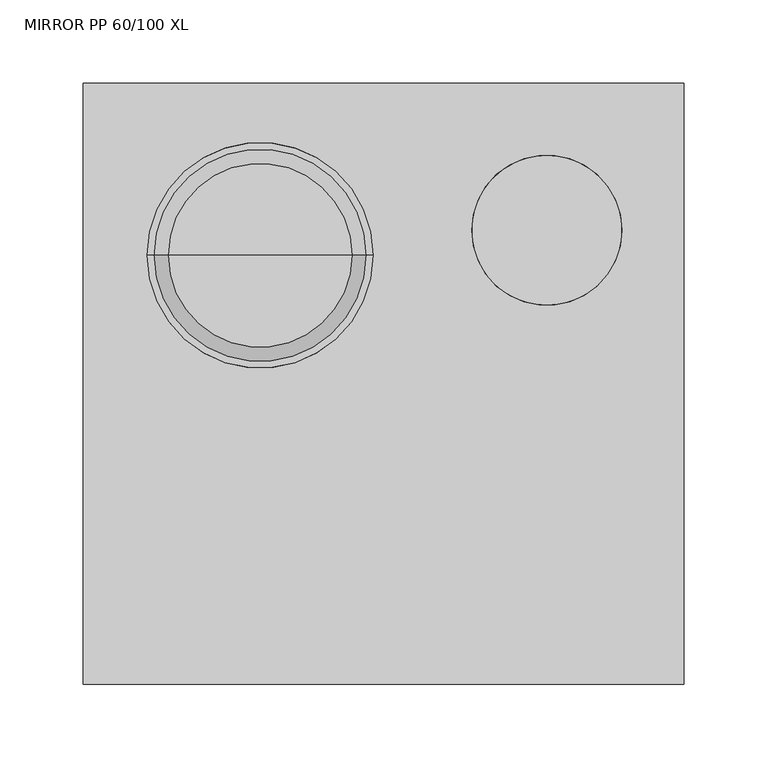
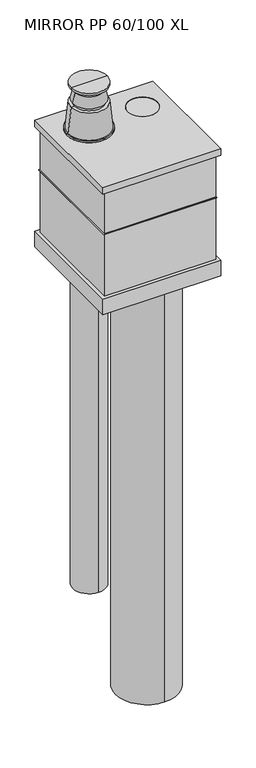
"""IFC4 building model written with IfcOpenShell, lengths in millimetres: proxy geometry, RSen_GM_WPB_Mini-Delta_M&G : MIRROR PP 60/100 XL."""

from ifc_helpers import new_model, si_unit, point, frame, frame_2d, origin, place, context, project, spatial, polyline, circle_curve, trimmed, segment, composite_curve, outline, extrude, faceted_brep, source, transform, mapped, element, save
from ifc_brep_helpers import plane_surface, cylinder_surface, revolved_surface, advanced_brep


def mirror_pp_60_100_xl_27835513(model_context):
    return source(origin(), model_context, "Body", "SolidModel", [
        advanced_brep(
        [(13.5, 77.0, 617.8458328), (-161.5, 77.0, 617.8458328), (-74.0, 77.0, 617.8458328), (-6.3843383, 77.0, 726.8458328), (-141.6156617, 77.0, 726.8458328), (-6.3843383, 77.0, 731.8458328), (-141.6156617, 77.0, 731.8458328), (-10.3450748, 77.0, 731.8458328), (-137.6549252, 77.0, 731.8458328), (-19.0, 77.0, 814.1919451), (-129.0, 77.0, 814.1919451), (-29.0, 77.0, 814.1919451), (-119.0, 77.0, 814.1919451), (-29.0, 77.0, 824.1919451), (-119.0, 77.0, 824.1919451), (-23.961256, 77.0, 824.1919451), (-124.038744, 77.0, 824.1919451), (-31.5, 77.0, 856.8458328), (-116.5, 77.0, 856.8458328), (-64.0, 77.0, 856.8458328), (-84.0, 77.0, 856.8458328), (-64.0, 77.0, 858.8265807), (-84.0, 77.0, 858.8265807), (-19.0, 77.0, 870.8842944), (-129.0, 77.0, 870.8842944), (-19.0, 77.0, 876.8458328), (-129.0, 77.0, 876.8458328), (-74.0, 77.0, 876.8458328)],
        [
            (0, 1, circle_curve(frame((-74.0, 77.0, 617.8458328), z_axis=(0.0, 0.0, -1.0), x_axis=(-1.0, 0.0, 0.0)), 87.5)),
            (1, 2),
            (2, 0),
            (1, 0, circle_curve(frame((-74.0, 77.0, 617.8458328), z_axis=(0.0, 0.0, -1.0), x_axis=(-1.0, 0.0, 0.0)), 87.5)),
            (3, 4, circle_curve(frame((-74.0, 77.0, 726.8458328), z_axis=(0.0, 0.0, -1.0), x_axis=(-1.0, 0.0, 0.0)), 67.6156617)),
            (4, 1),
            (0, 3),
            (4, 3, circle_curve(frame((-74.0, 77.0, 726.8458328), z_axis=(0.0, 0.0, -1.0), x_axis=(-1.0, 0.0, 0.0)), 67.6156617)),
            (5, 6, circle_curve(frame((-74.0, 77.0, 731.8458328), z_axis=(0.0, 0.0, -1.0), x_axis=(-1.0, 0.0, 0.0)), 67.6156617)),
            (6, 4),
            (3, 5),
            (6, 5, circle_curve(frame((-74.0, 77.0, 731.8458328), z_axis=(0.0, 0.0, -1.0), x_axis=(-1.0, 0.0, 0.0)), 67.6156617)),
            (7, 8, circle_curve(frame((-74.0, 77.0, 731.8458328), z_axis=(0.0, 0.0, -1.0), x_axis=(-1.0, 0.0, 0.0)), 63.6549252)),
            (8, 6),
            (5, 7),
            (8, 7, circle_curve(frame((-74.0, 77.0, 731.8458328), z_axis=(0.0, 0.0, -1.0), x_axis=(-1.0, 0.0, 0.0)), 63.6549252)),
            (9, 10, circle_curve(frame((-74.0, 77.0, 814.1919451), z_axis=(0.0, 0.0, -1.0), x_axis=(-1.0, 0.0, 0.0)), 55.0)),
            (10, 8),
            (7, 9),
            (10, 9, circle_curve(frame((-74.0, 77.0, 814.1919451), z_axis=(0.0, 0.0, -1.0), x_axis=(-1.0, 0.0, 0.0)), 55.0)),
            (11, 12, circle_curve(frame((-74.0, 77.0, 814.1919451), z_axis=(0.0, 0.0, -1.0), x_axis=(-1.0, 0.0, 0.0)), 45.0)),
            (12, 10),
            (9, 11),
            (12, 11, circle_curve(frame((-74.0, 77.0, 814.1919451), z_axis=(0.0, 0.0, -1.0), x_axis=(-1.0, 0.0, 0.0)), 45.0)),
            (13, 14, circle_curve(frame((-74.0, 77.0, 824.1919451), z_axis=(0.0, 0.0, -1.0), x_axis=(-1.0, 0.0, 0.0)), 45.0)),
            (14, 12),
            (11, 13),
            (14, 13, circle_curve(frame((-74.0, 77.0, 824.1919451), z_axis=(0.0, 0.0, -1.0), x_axis=(-1.0, 0.0, 0.0)), 45.0)),
            (15, 16, circle_curve(frame((-74.0, 77.0, 824.1919451), z_axis=(0.0, 0.0, -1.0), x_axis=(-1.0, 0.0, 0.0)), 50.038744)),
            (16, 14),
            (13, 15),
            (16, 15, circle_curve(frame((-74.0, 77.0, 824.1919451), z_axis=(0.0, 0.0, -1.0), x_axis=(-1.0, 0.0, 0.0)), 50.038744)),
            (17, 18, circle_curve(frame((-74.0, 77.0, 856.8458328), z_axis=(0.0, 0.0, -1.0), x_axis=(-1.0, 0.0, 0.0)), 42.5)),
            (18, 16),
            (15, 17),
            (18, 17, circle_curve(frame((-74.0, 77.0, 856.8458328), z_axis=(0.0, 0.0, -1.0), x_axis=(-1.0, 0.0, 0.0)), 42.5)),
            (19, 20, circle_curve(frame((-74.0, 77.0, 856.8458328), z_axis=(0.0, 0.0, -1.0), x_axis=(-1.0, 0.0, 0.0)), 10.0)),
            (20, 18),
            (17, 19),
            (20, 19, circle_curve(frame((-74.0, 77.0, 856.8458328), z_axis=(0.0, 0.0, -1.0), x_axis=(-1.0, 0.0, 0.0)), 10.0)),
            (21, 22, circle_curve(frame((-74.0, 77.0, 858.8265807), z_axis=(0.0, 0.0, -1.0), x_axis=(-1.0, 0.0, 0.0)), 10.0)),
            (22, 20),
            (19, 21),
            (22, 21, circle_curve(frame((-74.0, 77.0, 858.8265807), z_axis=(0.0, 0.0, -1.0), x_axis=(-1.0, 0.0, 0.0)), 10.0)),
            (23, 24, circle_curve(frame((-74.0, 77.0, 870.8842944), z_axis=(0.0, 0.0, -1.0), x_axis=(-1.0, 0.0, 0.0)), 55.0)),
            (24, 22),
            (21, 23),
            (24, 23, circle_curve(frame((-74.0, 77.0, 870.8842944), z_axis=(0.0, 0.0, -1.0), x_axis=(-1.0, 0.0, 0.0)), 55.0)),
            (25, 26, circle_curve(frame((-74.0, 77.0, 876.8458328), z_axis=(0.0, 0.0, -1.0), x_axis=(-1.0, 0.0, 0.0)), 55.0)),
            (26, 24),
            (23, 25),
            (26, 25, circle_curve(frame((-74.0, 77.0, 876.8458328), z_axis=(0.0, 0.0, -1.0), x_axis=(-1.0, 0.0, 0.0)), 55.0)),
            (27, 26),
            (25, 27),
        ],
        [
            plane_surface(frame((-74.0, 77.0, 617.8458328), z_axis=(0.0, 0.0, -1.0), x_axis=(-1.0, 0.0, 0.0))),
            revolved_surface(polyline([(-161.5, 77.0, 617.8458328), (-141.6156617, 77.0, 726.8458328)]), (-74.0, 77.0, -439.3122295), (0.0, 0.0, 1.0)),
            cylinder_surface(frame((-74.0, 77.0, -439.3122295), z_axis=(0.0, 0.0, 1.0), x_axis=(-1.0, 0.0, 0.0)), 67.6156617),
            plane_surface(frame((-74.0, 77.0, 731.8458328), z_axis=(0.0, 0.0, 1.0), x_axis=(-1.0, 0.0, 0.0))),
            revolved_surface(polyline([(-137.6549252, 77.0, 731.8458328), (-129.0, 77.0, 814.1919451)]), (-74.0, 77.0, -439.3122295), (0.0, 0.0, 1.0)),
            plane_surface(frame((-74.0, 77.0, 814.1919451), z_axis=(0.0, 0.0, 1.0), x_axis=(-1.0, 0.0, 0.0))),
            cylinder_surface(frame((-74.0, 77.0, -439.3122295), z_axis=(0.0, 0.0, 1.0), x_axis=(-1.0, 0.0, 0.0)), 45.0),
            plane_surface(frame((-74.0, 77.0, 824.1919451), z_axis=(0.0, 0.0, -1.0), x_axis=(-1.0, 0.0, 0.0))),
            revolved_surface(polyline([(-124.038744, 77.0, 824.1919451), (-116.5, 77.0, 856.8458328)]), (-74.0, 77.0, -439.3122295), (0.0, 0.0, 1.0)),
            plane_surface(frame((-74.0, 77.0, 856.8458328), z_axis=(0.0, 0.0, 1.0), x_axis=(-1.0, 0.0, 0.0))),
            cylinder_surface(frame((-74.0, 77.0, -439.3122295), z_axis=(0.0, 0.0, 1.0), x_axis=(-1.0, 0.0, 0.0)), 10.0),
            revolved_surface(polyline([(-84.0, 77.0, 858.8265807), (-129.0, 77.0, 870.8842944)]), (-74.0, 77.0, -439.3122295), (0.0, 0.0, 1.0)),
            cylinder_surface(frame((-74.0, 77.0, -439.3122295), z_axis=(0.0, 0.0, 1.0), x_axis=(-1.0, 0.0, 0.0)), 55.0),
            plane_surface(frame((-74.0, 77.0, 876.8458328), z_axis=(0.0, 0.0, 1.0), x_axis=(-1.0, 0.0, 0.0))),
        ],
        [
            (0, [[1, 2, 3]]),
            (0, [[4, -3, -2]]),
            (1, [[5, 6, -1, 7]]),
            (1, [[8, -7, -4, -6]]),
            (2, [[9, 10, -5, 11]]),
            (2, [[12, -11, -8, -10]]),
            (3, [[13, 14, -9, 15]]),
            (3, [[16, -15, -12, -14]]),
            (4, [[17, 18, -13, 19]]),
            (4, [[20, -19, -16, -18]]),
            (5, [[21, 22, -17, 23]]),
            (5, [[24, -23, -20, -22]]),
            (6, [[25, 26, -21, 27]]),
            (6, [[28, -27, -24, -26]]),
            (7, [[29, 30, -25, 31]]),
            (7, [[32, -31, -28, -30]]),
            (8, [[33, 34, -29, 35]]),
            (8, [[36, -35, -32, -34]]),
            (9, [[37, 38, -33, 39]]),
            (9, [[40, -39, -36, -38]]),
            (10, [[41, 42, -37, 43]]),
            (10, [[44, -43, -40, -42]]),
            (11, [[45, 46, -41, 47]]),
            (11, [[48, -47, -44, -46]]),
            (12, [[49, 50, -45, 51]]),
            (12, [[52, -51, -48, -50]]),
            (13, [[53, -49, 54]]),
            (13, [[-54, -52, -53]]),
        ],
    ),
        extrude(outline(polyline([(172.5, 172.5), (172.5, -172.5), (-172.5, -172.5), (-172.5, 172.5), (172.5, 172.5)])), frame((0.0, 0.0, 567.8458328), z_axis=(0.0, 0.0, 1.0), x_axis=(1.0, 0.0, 0.0)), (0.0, 0.0, 1.0), 1.3),
        extrude(outline(composite_curve([segment(trimmed(circle_curve(frame_2d((98.0, 92.0)), 45.0), [point((98.0, 47.0))], [point((98.0, 137.0))], False, "CARTESIAN"), True, "CONTINUOUS"), segment(trimmed(circle_curve(frame_2d((98.0, 92.0)), 45.0), [point((98.0, 137.0))], [point((98.0, 47.0))], False, "CARTESIAN"), True, "CONTINUOUS")], self_intersect=False)), frame((0.0, 0.0, -908.1541672), z_axis=(0.0, 0.0, 1.0), x_axis=(1.0, 0.0, 0.0)), (0.0, 0.0, 1.0), 1633.7),
        extrude(outline(composite_curve([segment(trimmed(circle_curve(frame_2d((-74.0, 77.0)), 50.0), [point((-74.0, 27.0))], [point((-74.0, 127.0))], False, "CARTESIAN"), True, "CONTINUOUS"), segment(trimmed(circle_curve(frame_2d((-74.0, 77.0)), 50.0), [point((-74.0, 127.0))], [point((-74.0, 27.0))], False, "CARTESIAN"), True, "CONTINUOUS")], self_intersect=False)), frame((0.0, 0.0, -742.1541672), z_axis=(0.0, 0.0, 1.0), x_axis=(1.0, 0.0, 0.0)), (0.0, 0.0, 1.0), 1449.0),
        extrude(outline(composite_curve([segment(trimmed(circle_curve(frame_2d((33.0, -42.0)), 95.0), [point((33.0, -137.0))], [point((33.0, 53.0))], False, "CARTESIAN"), True, "CONTINUOUS"), segment(trimmed(circle_curve(frame_2d((33.0, -42.0)), 95.0), [point((33.0, 53.0))], [point((33.0, -137.0))], False, "CARTESIAN"), True, "CONTINUOUS")], self_intersect=False)), frame((0.0, 0.0, -1034.1541672), z_axis=(0.0, 0.0, 1.0), x_axis=(1.0, 0.0, 0.0)), (0.0, 0.0, 1.0), 1500.0),
        advanced_brep(
        [(180.0, 180.0, 726.8458328), (-180.0, 180.0, 726.8458328), (-180.0, -180.0, 726.8458328), (180.0, -180.0, 726.8458328), (53.0, 92.0, 726.8458328), (143.0, 92.0, 726.8458328), (180.0, 180.0, 706.8458328), (180.0, -180.0, 706.8458328), (-180.0, -180.0, 706.8458328), (-180.0, 180.0, 706.8458328), (178.7, 178.7, 706.8458328), (-178.7, 178.7, 706.8458328), (-178.7, -178.7, 706.8458328), (178.7, -178.7, 706.8458328), (170.0, 170.0, 706.8458328), (170.0, -170.0, 706.8458328), (-170.0, -170.0, 706.8458328), (-170.0, 170.0, 706.8458328), (168.7, -168.7, 706.8458328), (168.7, 168.7, 706.8458328), (-168.7, 168.7, 706.8458328), (-168.7, -168.7, 706.8458328), (178.7, 178.7, 725.5458328), (178.7, -178.7, 725.5458328), (-178.7, -178.7, 725.5458328), (-178.7, 178.7, 725.5458328), (170.0, 170.0, 725.5458328), (-170.0, 170.0, 725.5458328), (-170.0, -170.0, 725.5458328), (170.0, -170.0, 725.5458328), (168.7, -168.7, 725.5458328), (-168.7, -168.7, 725.5458328), (-168.7, 168.7, 725.5458328), (168.7, 168.7, 725.5458328), (143.0, 92.0, 725.5458328), (53.0, 92.0, 725.5458328)],
        [
            (0, 1),
            (1, 2),
            (2, 3),
            (3, 0),
            (4, 5, circle_curve(frame((98.0, 92.0, 726.8458328), z_axis=(0.0, 0.0, -1.0), x_axis=(1.0, 0.0, 0.0)), 45.0)),
            (5, 4, circle_curve(frame((98.0, 92.0, 726.8458328), z_axis=(0.0, 0.0, -1.0), x_axis=(1.0, 0.0, 0.0)), 45.0)),
            (6, 7),
            (7, 8),
            (8, 9),
            (9, 6),
            (10, 11),
            (11, 12),
            (12, 13),
            (13, 10),
            (14, 15),
            (15, 16),
            (16, 17),
            (17, 14),
            (18, 19),
            (19, 20),
            (20, 21),
            (21, 18),
            (0, 6),
            (9, 1),
            (8, 2),
            (7, 3),
            (22, 23),
            (23, 24),
            (24, 25),
            (25, 22),
            (26, 27),
            (27, 28),
            (28, 29),
            (29, 26),
            (30, 31),
            (31, 32),
            (32, 33),
            (33, 30),
            (34, 35, circle_curve(frame((98.0, 92.0, 725.5458328), z_axis=(0.0, 0.0, 1.0), x_axis=(1.0, 0.0, 0.0)), 45.0)),
            (35, 34, circle_curve(frame((98.0, 92.0, 725.5458328), z_axis=(0.0, 0.0, 1.0), x_axis=(1.0, 0.0, 0.0)), 45.0)),
            (25, 11),
            (10, 22),
            (24, 12),
            (23, 13),
            (29, 15),
            (14, 26),
            (28, 16),
            (27, 17),
            (33, 19),
            (18, 30),
            (32, 20),
            (31, 21),
            (4, 35),
            (34, 5),
        ],
        [
            plane_surface(frame((-180.0, 180.0, 726.8458328), z_axis=(0.0, 0.0, 1.0), x_axis=(-1.0, 0.0, 0.0))),
            plane_surface(frame((-180.0, 180.0, 706.8458328), z_axis=(0.0, 0.0, -1.0), x_axis=(1.0, 0.0, 0.0))),
            plane_surface(frame((180.0, 180.0, 726.8458328), z_axis=(0.0, 1.0, 0.0), x_axis=(0.0, 0.0, -1.0))),
            plane_surface(frame((-180.0, 180.0, 726.8458328), z_axis=(-1.0, 0.0, 0.0), x_axis=(0.0, 0.0, -1.0))),
            plane_surface(frame((-180.0, -180.0, 726.8458328), z_axis=(0.0, -1.0, 0.0), x_axis=(0.0, 0.0, -1.0))),
            plane_surface(frame((180.0, -180.0, 726.8458328), z_axis=(1.0, 0.0, 0.0), x_axis=(0.0, 0.0, -1.0))),
            plane_surface(frame((-170.0, 178.7, 725.5458328), z_axis=(0.0, 0.0, -1.0), x_axis=(-1.0, 0.0, 0.0))),
            plane_surface(frame((178.7, 178.7, 725.5458328), z_axis=(0.0, -1.0, 0.0), x_axis=(0.0, 0.0, -1.0))),
            plane_surface(frame((-178.7, 178.7, 725.5458328), z_axis=(1.0, 0.0, 0.0), x_axis=(0.0, 0.0, -1.0))),
            plane_surface(frame((-178.7, -178.7, 725.5458328), z_axis=(0.0, 1.0, 0.0), x_axis=(0.0, 0.0, -1.0))),
            plane_surface(frame((178.7, -178.7, 725.5458328), z_axis=(-1.0, 0.0, 0.0), x_axis=(0.0, 0.0, -1.0))),
            plane_surface(frame((170.0, 170.0, 725.5458328), z_axis=(1.0, 0.0, 0.0), x_axis=(0.0, 0.0, -1.0))),
            plane_surface(frame((170.0, -170.0, 725.5458328), z_axis=(0.0, -1.0, 0.0), x_axis=(0.0, 0.0, -1.0))),
            plane_surface(frame((-170.0, -170.0, 725.5458328), z_axis=(-1.0, 0.0, 0.0), x_axis=(0.0, 0.0, -1.0))),
            plane_surface(frame((-170.0, 170.0, 725.5458328), z_axis=(0.0, 1.0, 0.0), x_axis=(0.0, 0.0, -1.0))),
            plane_surface(frame((168.7, -168.7, 725.5458328), z_axis=(-1.0, 0.0, 0.0), x_axis=(0.0, 0.0, -1.0))),
            plane_surface(frame((168.7, 168.7, 725.5458328), z_axis=(0.0, -1.0, 0.0), x_axis=(0.0, 0.0, -1.0))),
            plane_surface(frame((-168.7, 168.7, 725.5458328), z_axis=(1.0, 0.0, 0.0), x_axis=(0.0, 0.0, -1.0))),
            plane_surface(frame((-168.7, -168.7, 725.5458328), z_axis=(0.0, 1.0, 0.0), x_axis=(0.0, 0.0, -1.0))),
            revolved_surface(polyline([(143.0, 92.0, 725.5458328), (143.0, 92.0, 726.8458328)]), (98.0, 92.0, 706.8458328), (0.0, 0.0, -1.0)),
        ],
        [
            (0, [[1, 2, 3, 4], [5, 6]]),
            (1, [[7, 8, 9, 10], [11, 12, 13, 14]]),
            (1, [[15, 16, 17, 18], [19, 20, 21, 22]]),
            (2, [[-1, 23, -10, 24]]),
            (3, [[-2, -24, -9, 25]]),
            (4, [[-3, -25, -8, 26]]),
            (5, [[-4, -26, -7, -23]]),
            (6, [[27, 28, 29, 30], [31, 32, 33, 34]]),
            (6, [[35, 36, 37, 38], [39, 40]]),
            (7, [[-30, 41, -11, 42]]),
            (8, [[-29, 43, -12, -41]]),
            (9, [[-28, 44, -13, -43]]),
            (10, [[-27, -42, -14, -44]]),
            (11, [[-34, 45, -15, 46]]),
            (12, [[-33, 47, -16, -45]]),
            (13, [[-32, 48, -17, -47]]),
            (14, [[-31, -46, -18, -48]]),
            (15, [[-38, 49, -19, 50]]),
            (16, [[-37, 51, -20, -49]]),
            (17, [[-36, 52, -21, -51]]),
            (18, [[-35, -50, -22, -52]]),
            (19, [[53, -39, 54, -5]]),
            (19, [[-53, -6, -54, -40]]),
        ],
    ),
        faceted_brep([(170.0, 170.0, 725.5458328), (-170.0, 170.0, 725.5458328), (-170.0, -170.0, 725.5458328), (170.0, -170.0, 725.5458328), (168.7, 168.7, 725.5458328), (168.7, -168.7, 725.5458328), (-168.7, -168.7, 725.5458328), (-168.7, 168.7, 725.5458328), (170.0, 170.0, 367.8458328), (170.0, -170.0, 367.8458328), (-170.0, -170.0, 367.8458328), (-170.0, 170.0, 367.8458328), (168.7, 168.7, 367.8458328), (-168.7, 168.7, 367.8458328), (-168.7, -168.7, 367.8458328), (168.7, -168.7, 367.8458328), (170.0, 170.0, 706.8458328), (-170.0, 170.0, 706.8458328), (-170.0, -170.0, 706.8458328), (170.0, -170.0, 706.8458328), (168.7, 168.7, 706.8458328), (168.7, -168.7, 706.8458328), (-168.7, -168.7, 706.8458328), (-168.7, 168.7, 706.8458328)], [[[0, 1, 2, 3], [4, 5, 6, 7]], [[8, 9, 10, 11], [12, 13, 14, 15]], [[1, 0, 16, 8, 11, 17]], [[2, 1, 17, 11, 10, 18]], [[3, 2, 18, 10, 9, 19]], [[0, 3, 19, 9, 8, 16]], [[5, 4, 20, 12, 15, 21]], [[6, 5, 21, 15, 14, 22]], [[7, 6, 22, 14, 13, 23]], [[4, 7, 23, 13, 12, 20]]]),
        faceted_brep([(180.0, 180.0, 317.8458328), (180.0, -180.0, 317.8458328), (-180.0, -180.0, 317.8458328), (-180.0, 180.0, 317.8458328), (178.7, 178.7, 317.8458328), (-178.7, 178.7, 317.8458328), (-178.7, 77.3, 317.8458328), (178.7, 77.3, 317.8458328), (180.0, 180.0, 367.8458328), (-180.0, 180.0, 367.8458328), (-180.0, -180.0, 367.8458328), (180.0, -180.0, 367.8458328), (178.7, 178.7, 366.5458328), (178.7, 77.3, 366.5458328), (-178.7, 77.3, 366.5458328), (-178.7, 178.7, 366.5458328)], [[[0, 1, 2, 3], [4, 5, 6, 7]], [[8, 9, 10, 11]], [[0, 3, 9, 8]], [[3, 2, 10, 9]], [[2, 1, 11, 10]], [[1, 0, 8, 11]], [[12, 13, 14, 15]], [[12, 15, 5, 4]], [[15, 14, 6, 5]], [[14, 13, 7, 6]], [[13, 12, 4, 7]]]),
    ])


if __name__ == "__main__":
    model = new_model("IFC4")
    model_context = context("Model", 3, world=origin())
    ifc_project = project(units=[si_unit("LENGTHUNIT", "METRE", prefix="MILLI")], contexts=[model_context])
    site = spatial("IfcSite", under=ifc_project)
    building = spatial("IfcBuilding", under=site)
    placement = place(None, origin())
    mirror_pp_60_100_xl_shape = mirror_pp_60_100_xl_27835513(model_context)
    element("IfcBuildingElementProxy", 1, Name="RSen_GM_WPB_Mini-Delta_M&G : MIRROR PP 60/100 XL", ObjectType="RSen_GM_WPB_Mini-Delta_M&G : MIRROR PP 60/100 XL", at=placement, inside=building, context=model_context, shape_type="MappedRepresentation", body=[
        mapped(mirror_pp_60_100_xl_shape, transform((0.0, 0.0, 0.0), x_axis=(1.0, 0.0, 0.0), y_axis=(0.0, 1.0, 0.0), z_axis=(0.0, 0.0, 1.0))),
    ])
    save(model, "model.ifc")
